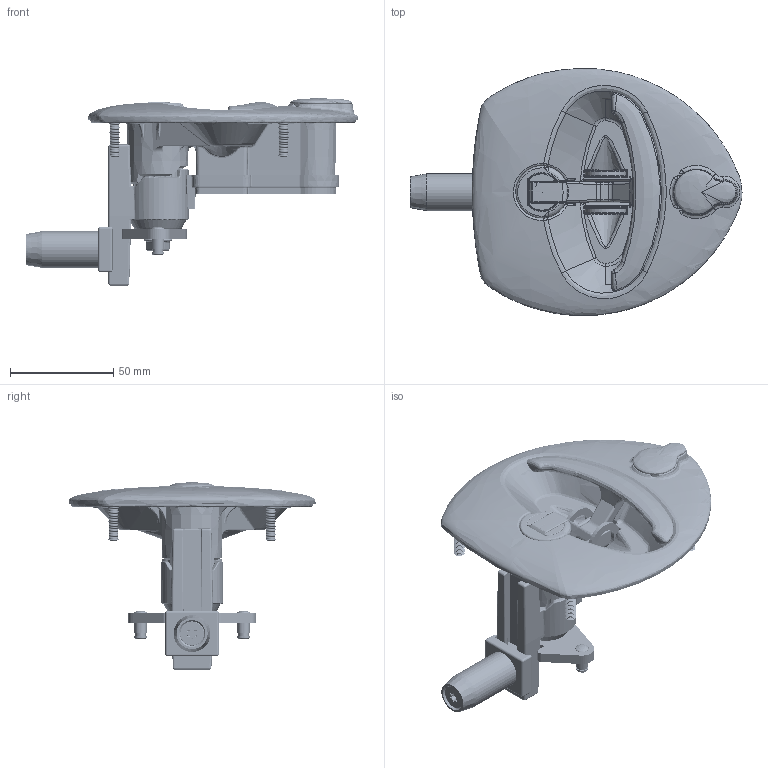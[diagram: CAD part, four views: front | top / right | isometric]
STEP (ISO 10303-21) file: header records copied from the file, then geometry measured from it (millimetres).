
FILE_DESCRIPTION (( 'STEP AP214' ), '1' );
FILE_NAME ('vector-272363-68-s-Industrilas.step', '2020-04-14T04:28:32', ( '' ), ( '' ), 'SwSTEP 2.0', 'SolidWorks 2010', '' );
FILE_SCHEMA (( 'AUTOMOTIVE_DESIGN' ));
Products named in the file (25): 275020-1-4(275020-1-4P); 275020-1-4(275020-1-4-1P); 275020-41; 275020-2; 275020-10(275020-10); 00003157; 00002075; 275020-9(275020-9-6); 275020-9-3; 2321s1401-r05; 275020-9-1; 012115-45; 275020-12-1; 275020-7-2; 275020-3-3; 00002092; 275020-11; 062191-2,5; 042178; 275020-4-1(275020-4); 012103-20gf; 00001807(Default); 275020-14s-001(275020-14S-001); 052087-5(NITAD); vector-272363-68-s-Industrilas
Assembly tree (28 placements, depth 3):
  vector-272363-68-s-Industrilas
    00002075
      275020-9-3
      275020-9-1
      2321s1401-r05
      275020-9(275020-9-6)
      012115-45
    042178
    062191-2,5
    275020-3-3
    275020-2
    275020-7-2
    275020-10(275020-10)
    00002092
      275020-11
    275020-4-1(275020-4)
    275020-12-1
    275020-1-4(275020-1-4P)
      275020-1-4(275020-1-4-1P)
      275020-41  x4
    012103-20gf
    00003157
    00001807(Default)
      275020-14s-001(275020-14S-001)
      052087-5(NITAD)  x2
Bounding box: 161.15 x 119.9 x 90.88 mm (x, y, z)
Volume: 138878 mm3; surface area: 101404.3 mm2
Topology: 24 solids, 24 shells, 4277 faces, 10582 edges, 6371 vertices
Faces by surface type: bspline 1654, plane 1063, cylinder 793, cone 467, torus 237, sphere 63
Full cylindrical faces by diameter (mm): 0.477 x1, 2.5 x3, 3 x1, 3.6 x1, 4 x2, 4.134 x80, 4.2 x1, 4.9 x2, 5 x10, 5.2 x6, 5.4 x2, 5.6 x1, 6 x65, 6.1 x2, 6.2 x2, 6.4 x1, 6.5 x2, 7 x9, 7.9 x1, 10 x1, 10.2 x1, 11.8 x1, 12.5 x2, 13 x2, 13.5 x3, 14 x1, 17 x2, 17.9 x1, 18 x1, 19 x1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
Entity records: 226406 total; most frequent: CARTESIAN_POINT 145091, ORIENTED_EDGE 18770, DIRECTION 13050, EDGE_CURVE 9385, VERTEX_POINT 5891, AXIS2_PLACEMENT_3D 4908, EDGE_LOOP 4568, FACE_OUTER_BOUND 4193
